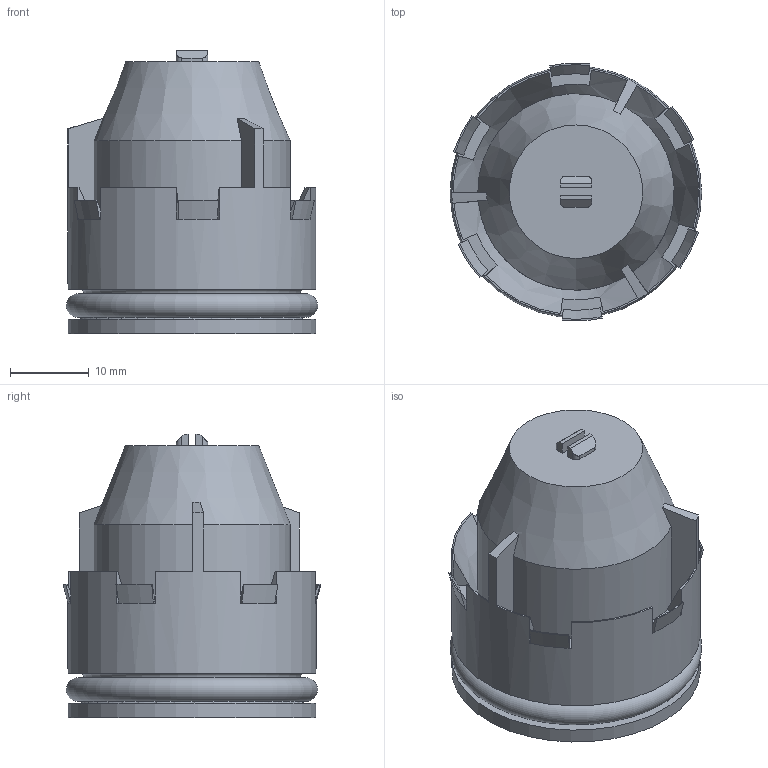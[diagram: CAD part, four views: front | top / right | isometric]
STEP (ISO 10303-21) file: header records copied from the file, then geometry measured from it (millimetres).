
FILE_DESCRIPTION((''),'2;1');
FILE_NAME('C:\Users\duckj\Desktop\10002714.stp','2017-08-02T08:33:12',('duckj'),(''),'Autodesk Inventor 2013','Autodesk Inventor 2013','');
FILE_SCHEMA(('CONFIG_CONTROL_DESIGN'));
Length unit declared in the file: millimetre
Products named in the file (1): 02082017_004
Bounding box: 31.99 x 32.8 x 36.1 mm (x, y, z)
Volume: 18819.4 mm3; surface area: 6417.8 mm2
Topology: 1 solids, 1 shells, 105 faces, 280 edges, 182 vertices
Faces by surface type: plane 68, cone 20, cylinder 11, torus 5, bspline 1
Full cylindrical faces by diameter (mm): 20 x1, 27.6 x1, 31.6 x2
Entity records: 3321 total; most frequent: CARTESIAN_POINT 568, DIRECTION 566, ORIENTED_EDGE 522, EDGE_CURVE 261, AXIS2_PLACEMENT_3D 200, VERTEX_POINT 175, VECTOR 166, LINE 166
